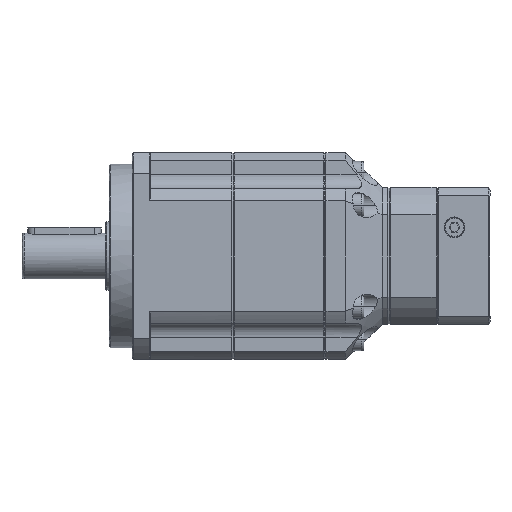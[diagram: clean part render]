
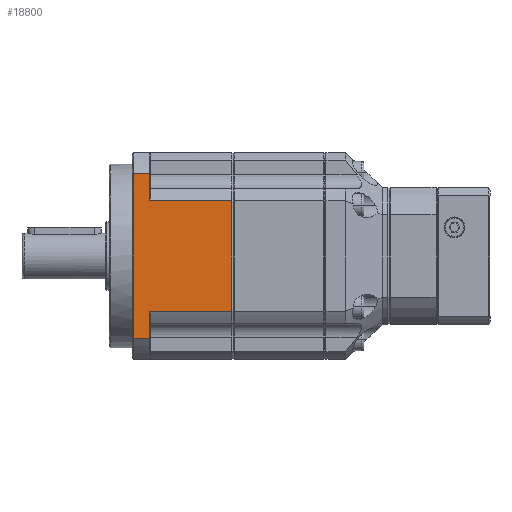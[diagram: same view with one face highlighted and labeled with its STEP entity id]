
A CAD part, front view. The second image highlights one B-rep face of the part: STEP entity #18800.
In plain terms, the highlighted planar face has unit normal (0, -1, 0).
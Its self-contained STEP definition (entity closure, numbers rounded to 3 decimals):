
#691 = CARTESIAN_POINT ( 'NONE',  ( 32., -45., 24. ) ) ;
#4719 = PLANE ( 'NONE',  #98284 ) ;
#6642 = VERTEX_POINT ( 'NONE', #29021 ) ;
#8393 = EDGE_LOOP ( 'NONE', ( #38478, #71530, #27445, #11354, #101262, #67068, #90756, #52081 ) ) ;
#8683 = CARTESIAN_POINT ( 'NONE',  ( 17.5, -45., 35.795 ) ) ;
#8774 = VERTEX_POINT ( 'NONE', #8683 ) ;
#11146 = LINE ( 'NONE', #691, #43669 ) ;
#11354 = ORIENTED_EDGE ( 'NONE', *, *, #22209, .F. ) ;
#12405 = VECTOR ( 'NONE', #65689, 1000. ) ;
#13765 = DIRECTION ( 'NONE',  ( 0., 0., -1. ) ) ;
#14988 = LINE ( 'NONE', #60046, #12405 ) ;
#15231 = DIRECTION ( 'NONE',  ( 0., 0., -1. ) ) ;
#15318 = LINE ( 'NONE', #87287, #30952 ) ;
#16267 = CARTESIAN_POINT ( 'NONE',  ( 32., -45., -24. ) ) ;
#16416 = VECTOR ( 'NONE', #87281, 1000. ) ;
#18800 = ADVANCED_FACE ( 'NONE', ( #63104 ), #4719, .T. ) ;
#18943 = VERTEX_POINT ( 'NONE', #40219 ) ;
#19034 = LINE ( 'NONE', #29504, #16416 ) ;
#21978 = VECTOR ( 'NONE', #33359, 1000. ) ;
#22209 = EDGE_CURVE ( 'NONE', #35429, #87482, #38434, .T. ) ;
#22384 = CARTESIAN_POINT ( 'NONE',  ( 17.5, -45., -24. ) ) ;
#23194 = CARTESIAN_POINT ( 'NONE',  ( 10.5, -45., 0. ) ) ;
#27445 = ORIENTED_EDGE ( 'NONE', *, *, #54411, .T. ) ;
#27785 = EDGE_CURVE ( 'NONE', #102572, #6642, #44742, .T. ) ;
#29021 = CARTESIAN_POINT ( 'NONE',  ( 10.5, -45., -35.795 ) ) ;
#29504 = CARTESIAN_POINT ( 'NONE',  ( 17.5, -45., 0. ) ) ;
#29941 = VERTEX_POINT ( 'NONE', #22384 ) ;
#30952 = VECTOR ( 'NONE', #78496, 1000. ) ;
#32012 = DIRECTION ( 'NONE',  ( 0., 0., -1. ) ) ;
#33359 = DIRECTION ( 'NONE',  ( 1., 0., 0. ) ) ;
#34457 = CARTESIAN_POINT ( 'NONE',  ( 17.5, -45., -35.795 ) ) ;
#34577 = VECTOR ( 'NONE', #32012, 1000. ) ;
#35429 = VERTEX_POINT ( 'NONE', #101658 ) ;
#36460 = EDGE_CURVE ( 'NONE', #6642, #102797, #72686, .T. ) ;
#38434 = LINE ( 'NONE', #48412, #34577 ) ;
#38478 = ORIENTED_EDGE ( 'NONE', *, *, #36460, .T. ) ;
#40219 = CARTESIAN_POINT ( 'NONE',  ( 17.5, -45., 24. ) ) ;
#43669 = VECTOR ( 'NONE', #73965, 1000. ) ;
#44742 = LINE ( 'NONE', #23194, #86641 ) ;
#46073 = CARTESIAN_POINT ( 'NONE',  ( 32., -45., -35.795 ) ) ;
#46737 = LINE ( 'NONE', #16267, #21978 ) ;
#46785 = DIRECTION ( 'NONE',  ( 1., 0., 0. ) ) ;
#48412 = CARTESIAN_POINT ( 'NONE',  ( 53.5, -45., 0. ) ) ;
#52081 = ORIENTED_EDGE ( 'NONE', *, *, #27785, .T. ) ;
#54194 = CARTESIAN_POINT ( 'NONE',  ( 10.5, -45., 35.795 ) ) ;
#54411 = EDGE_CURVE ( 'NONE', #29941, #87482, #46737, .T. ) ;
#55403 = EDGE_CURVE ( 'NONE', #18943, #8774, #15318, .T. ) ;
#60046 = CARTESIAN_POINT ( 'NONE',  ( 32., -45., 35.795 ) ) ;
#63104 = FACE_OUTER_BOUND ( 'NONE', #8393, .T. ) ;
#65689 = DIRECTION ( 'NONE',  ( -1., 0., 0. ) ) ;
#67068 = ORIENTED_EDGE ( 'NONE', *, *, #55403, .T. ) ;
#71530 = ORIENTED_EDGE ( 'NONE', *, *, #96937, .T. ) ;
#72686 = LINE ( 'NONE', #46073, #78089 ) ;
#73965 = DIRECTION ( 'NONE',  ( -1., 0., 0. ) ) ;
#78089 = VECTOR ( 'NONE', #46785, 1000. ) ;
#78496 = DIRECTION ( 'NONE',  ( 0., 0., 1. ) ) ;
#81656 = CARTESIAN_POINT ( 'NONE',  ( 10.5, -45., 35.795 ) ) ;
#86641 = VECTOR ( 'NONE', #15231, 1000. ) ;
#87281 = DIRECTION ( 'NONE',  ( 0., 0., 1. ) ) ;
#87287 = CARTESIAN_POINT ( 'NONE',  ( 17.5, -45., 0. ) ) ;
#87482 = VERTEX_POINT ( 'NONE', #89860 ) ;
#87872 = DIRECTION ( 'NONE',  ( 0., -1., 0. ) ) ;
#89428 = EDGE_CURVE ( 'NONE', #8774, #102572, #14988, .T. ) ;
#89860 = CARTESIAN_POINT ( 'NONE',  ( 53.5, -45., -24. ) ) ;
#90756 = ORIENTED_EDGE ( 'NONE', *, *, #89428, .T. ) ;
#96937 = EDGE_CURVE ( 'NONE', #102797, #29941, #19034, .T. ) ;
#97915 = EDGE_CURVE ( 'NONE', #35429, #18943, #11146, .T. ) ;
#98284 = AXIS2_PLACEMENT_3D ( 'NONE', #54194, #87872, #13765 ) ;
#101262 = ORIENTED_EDGE ( 'NONE', *, *, #97915, .T. ) ;
#101658 = CARTESIAN_POINT ( 'NONE',  ( 53.5, -45., 24. ) ) ;
#102572 = VERTEX_POINT ( 'NONE', #81656 ) ;
#102797 = VERTEX_POINT ( 'NONE', #34457 ) ;
